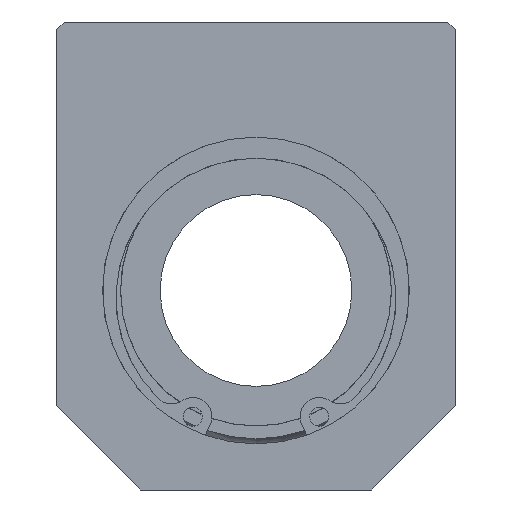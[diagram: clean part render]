
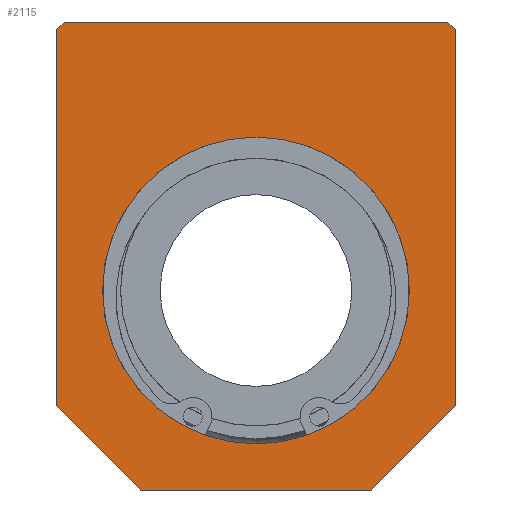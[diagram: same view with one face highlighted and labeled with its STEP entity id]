
A CAD part, left-side view. The second image highlights one B-rep face of the part: STEP entity #2115.
In plain terms, the highlighted planar face has unit normal (-1, 0, 0).
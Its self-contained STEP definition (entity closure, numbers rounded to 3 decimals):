
#2017=CARTESIAN_POINT('',(0.0,-25.,35.));
#2018=VERTEX_POINT('',#2017);
#2025=CARTESIAN_POINT('',(0.0,-26.,34.));
#2026=VERTEX_POINT('',#2025);
#2027=CARTESIAN_POINT('',(0.0,-25.,35.));
#2028=DIRECTION('',(0.0,-0.707,-0.707));
#2029=VECTOR('',#2028,1.414);
#2030=LINE('',#2027,#2029);
#2031=EDGE_CURVE('',#2018,#2026,#2030,.T.);
#2042=CARTESIAN_POINT('',(0.0,0.,4.5));
#2043=DIRECTION('',(1.0,0.0,0.0));
#2044=DIRECTION('',(0.0,0.0,-1.0));
#2045=AXIS2_PLACEMENT_3D('',#2042,#2043,#2044);
#2046=PLANE('',#2045);
#2047=ORIENTED_EDGE('',*,*,#2031,.F.);
#2048=CARTESIAN_POINT('',(0.0,25.0,35.));
#2049=VERTEX_POINT('',#2048);
#2050=CARTESIAN_POINT('',(0.0,-25.,35.));
#2051=DIRECTION('',(0.0,1.0,0.0));
#2052=VECTOR('',#2051,50.0);
#2053=LINE('',#2050,#2052);
#2054=EDGE_CURVE('',#2018,#2049,#2053,.T.);
#2055=ORIENTED_EDGE('',*,*,#2054,.T.);
#2056=CARTESIAN_POINT('',(0.0,26.,34.));
#2057=VERTEX_POINT('',#2056);
#2058=CARTESIAN_POINT('',(0.0,26.,34.));
#2059=DIRECTION('',(0.0,-0.707,0.707));
#2060=VECTOR('',#2059,1.414);
#2061=LINE('',#2058,#2060);
#2062=EDGE_CURVE('',#2057,#2049,#2061,.T.);
#2063=ORIENTED_EDGE('',*,*,#2062,.F.);
#2064=CARTESIAN_POINT('',(0.0,26.,-15.));
#2065=VERTEX_POINT('',#2064);
#2066=CARTESIAN_POINT('',(0.0,26.,34.));
#2067=DIRECTION('',(0.0,0.0,-1.0));
#2068=VECTOR('',#2067,49.);
#2069=LINE('',#2066,#2068);
#2070=EDGE_CURVE('',#2057,#2065,#2069,.T.);
#2071=ORIENTED_EDGE('',*,*,#2070,.T.);
#2072=CARTESIAN_POINT('',(0.0,15.,-26.));
#2073=VERTEX_POINT('',#2072);
#2074=CARTESIAN_POINT('',(0.0,15.,-26.));
#2075=DIRECTION('',(0.0,0.707,0.707));
#2076=VECTOR('',#2075,15.556);
#2077=LINE('',#2074,#2076);
#2078=EDGE_CURVE('',#2073,#2065,#2077,.T.);
#2079=ORIENTED_EDGE('',*,*,#2078,.F.);
#2080=CARTESIAN_POINT('',(0.0,-15.,-26.));
#2081=VERTEX_POINT('',#2080);
#2082=CARTESIAN_POINT('',(0.0,15.,-26.));
#2083=DIRECTION('',(0.0,-1.0,0.0));
#2084=VECTOR('',#2083,30.);
#2085=LINE('',#2082,#2084);
#2086=EDGE_CURVE('',#2073,#2081,#2085,.T.);
#2087=ORIENTED_EDGE('',*,*,#2086,.T.);
#2088=CARTESIAN_POINT('',(0.0,-26.,-15.));
#2089=VERTEX_POINT('',#2088);
#2090=CARTESIAN_POINT('',(0.0,-26.,-15.));
#2091=DIRECTION('',(0.0,0.707,-0.707));
#2092=VECTOR('',#2091,15.556);
#2093=LINE('',#2090,#2092);
#2094=EDGE_CURVE('',#2089,#2081,#2093,.T.);
#2095=ORIENTED_EDGE('',*,*,#2094,.F.);
#2096=CARTESIAN_POINT('',(0.0,-26.,-15.));
#2097=DIRECTION('',(0.0,0.0,1.0));
#2098=VECTOR('',#2097,49.);
#2099=LINE('',#2096,#2098);
#2100=EDGE_CURVE('',#2089,#2026,#2099,.T.);
#2101=ORIENTED_EDGE('',*,*,#2100,.T.);
#2102=EDGE_LOOP('',(#2047,#2055,#2063,#2071,#2079,#2087,#2095,#2101));
#2103=FACE_OUTER_BOUND('',#2102,.T.);
#2104=CARTESIAN_POINT('',(0.0,20.0,0.));
#2105=VERTEX_POINT('',#2104);
#2106=CARTESIAN_POINT('',(0.0,0.0,0.0));
#2107=DIRECTION('',(1.0,0.0,0.0));
#2108=DIRECTION('',(0.0,-1.0,0.0));
#2109=AXIS2_PLACEMENT_3D('',#2106,#2107,#2108);
#2110=CIRCLE('',#2109,20.0);
#2111=EDGE_CURVE('',#2105,#2105,#2110,.T.);
#2112=ORIENTED_EDGE('',*,*,#2111,.T.);
#2113=EDGE_LOOP('',(#2112));
#2114=FACE_BOUND('',#2113,.T.);
#2115=ADVANCED_FACE('',(#2103,#2114),#2046,.F.);
